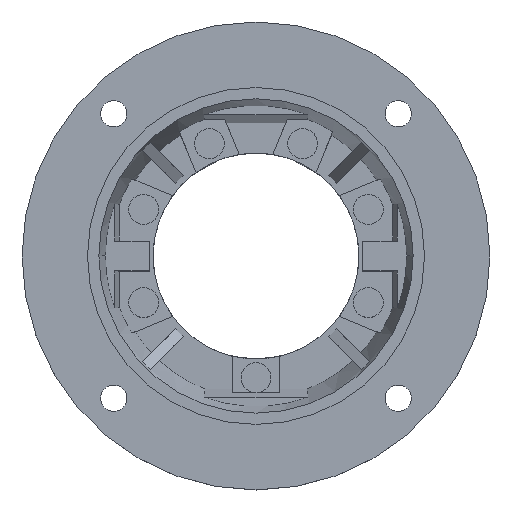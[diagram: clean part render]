
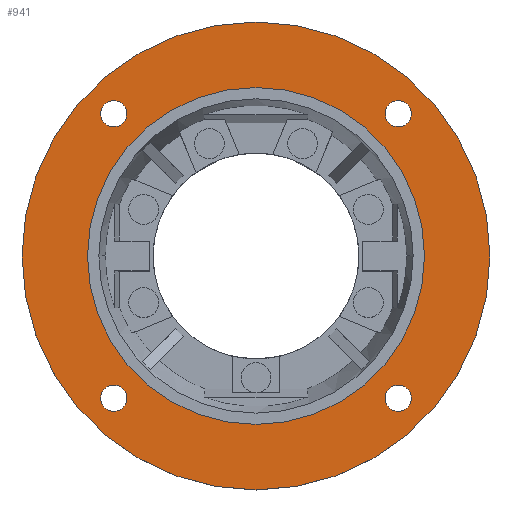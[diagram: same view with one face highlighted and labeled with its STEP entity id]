
A CAD part, top view. The second image highlights one B-rep face of the part: STEP entity #941.
In plain terms, the highlighted planar face has unit normal (0, 0, 1) as drawn and (1, 0, 0) by its records, which use the part's own axes.
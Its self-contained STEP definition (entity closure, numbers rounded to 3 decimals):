
#941=ADVANCED_FACE('',(#1097,#1052,#1053,#1054,#1055,#1056),#3181,.T.);
#1052=FACE_BOUND('',#1247,.T.);
#1053=FACE_BOUND('',#1248,.T.);
#1054=FACE_BOUND('',#1249,.T.);
#1055=FACE_BOUND('',#1250,.T.);
#1056=FACE_BOUND('',#1251,.T.);
#1097=FACE_OUTER_BOUND('',#1246,.T.);
#1246=EDGE_LOOP('',(#1645,#1646));
#1247=EDGE_LOOP('',(#1647,#1648));
#1248=EDGE_LOOP('',(#1649,#1650));
#1249=EDGE_LOOP('',(#1651,#1652));
#1250=EDGE_LOOP('',(#1653,#1654));
#1251=EDGE_LOOP('',(#1655,#1656));
#1645=ORIENTED_EDGE('',*,*,#2320,.F.);
#1646=ORIENTED_EDGE('',*,*,#2221,.F.);
#1647=ORIENTED_EDGE('',*,*,#2332,.F.);
#1648=ORIENTED_EDGE('',*,*,#2239,.F.);
#1649=ORIENTED_EDGE('',*,*,#2330,.F.);
#1650=ORIENTED_EDGE('',*,*,#2235,.F.);
#1651=ORIENTED_EDGE('',*,*,#2328,.F.);
#1652=ORIENTED_EDGE('',*,*,#2231,.F.);
#1653=ORIENTED_EDGE('',*,*,#2326,.F.);
#1654=ORIENTED_EDGE('',*,*,#2227,.F.);
#1655=ORIENTED_EDGE('',*,*,#2324,.F.);
#1656=ORIENTED_EDGE('',*,*,#2225,.F.);
#2221=EDGE_CURVE('',#3023,#3051,#2462,.T.);
#2225=EDGE_CURVE('',#3024,#3052,#2465,.T.);
#2227=EDGE_CURVE('',#3028,#3054,#2466,.T.);
#2231=EDGE_CURVE('',#3027,#3055,#2469,.T.);
#2235=EDGE_CURVE('',#3026,#3056,#2472,.T.);
#2239=EDGE_CURVE('',#3025,#3057,#2475,.T.);
#2320=EDGE_CURVE('',#3051,#3023,#2496,.T.);
#2324=EDGE_CURVE('',#3052,#3024,#2499,.T.);
#2326=EDGE_CURVE('',#3054,#3028,#2500,.T.);
#2328=EDGE_CURVE('',#3055,#3027,#2501,.T.);
#2330=EDGE_CURVE('',#3056,#3026,#2502,.T.);
#2332=EDGE_CURVE('',#3057,#3025,#2503,.T.);
#2462=TRIMMED_CURVE($,#2570,(#4909),(#4910),.T.,.CARTESIAN.);
#2465=TRIMMED_CURVE($,#2573,(#4920),(#4921),.T.,.CARTESIAN.);
#2466=TRIMMED_CURVE($,#2574,(#4925),(#4926),.T.,.CARTESIAN.);
#2469=TRIMMED_CURVE($,#2577,(#4936),(#4937),.T.,.CARTESIAN.);
#2472=TRIMMED_CURVE($,#2580,(#4947),(#4948),.T.,.CARTESIAN.);
#2475=TRIMMED_CURVE($,#2583,(#4958),(#4959),.T.,.CARTESIAN.);
#2496=TRIMMED_CURVE($,#2604,(#5169),(#5170),.T.,.CARTESIAN.);
#2499=TRIMMED_CURVE($,#2607,(#5180),(#5181),.T.,.CARTESIAN.);
#2500=TRIMMED_CURVE($,#2608,(#5185),(#5186),.T.,.CARTESIAN.);
#2501=TRIMMED_CURVE($,#2609,(#5190),(#5191),.T.,.CARTESIAN.);
#2502=TRIMMED_CURVE($,#2610,(#5195),(#5196),.T.,.CARTESIAN.);
#2503=TRIMMED_CURVE($,#2611,(#5200),(#5201),.T.,.CARTESIAN.);
#2570=CIRCLE('',#3658,125.);
#2573=CIRCLE('',#3661,90.);
#2574=CIRCLE('',#3662,7.);
#2577=CIRCLE('',#3665,7.);
#2580=CIRCLE('',#3668,7.);
#2583=CIRCLE('',#3671,7.);
#2604=CIRCLE('',#3692,125.);
#2607=CIRCLE('',#3695,90.);
#2608=CIRCLE('',#3696,7.);
#2609=CIRCLE('',#3697,7.);
#2610=CIRCLE('',#3698,7.);
#2611=CIRCLE('',#3699,7.);
#3023=VERTEX_POINT('',#4453);
#3024=VERTEX_POINT('',#4454);
#3025=VERTEX_POINT('',#4455);
#3026=VERTEX_POINT('',#4456);
#3027=VERTEX_POINT('',#4457);
#3028=VERTEX_POINT('',#4458);
#3051=VERTEX_POINT('',#4481);
#3052=VERTEX_POINT('',#4482);
#3054=VERTEX_POINT('',#4484);
#3055=VERTEX_POINT('',#4485);
#3056=VERTEX_POINT('',#4486);
#3057=VERTEX_POINT('',#4487);
#3181=PLANE('',#3548);
#3548=AXIS2_PLACEMENT_3D('',#4226,#3792,$);
#3658=AXIS2_PLACEMENT_3D($,#4908,#3942,#3943);
#3661=AXIS2_PLACEMENT_3D($,#4919,#3948,#3949);
#3662=AXIS2_PLACEMENT_3D($,#4924,#3950,#3951);
#3665=AXIS2_PLACEMENT_3D($,#4935,#3956,#3957);
#3668=AXIS2_PLACEMENT_3D($,#4946,#3962,#3963);
#3671=AXIS2_PLACEMENT_3D($,#4957,#3968,#3969);
#3692=AXIS2_PLACEMENT_3D($,#5168,#4010,#4011);
#3695=AXIS2_PLACEMENT_3D($,#5179,#4016,#4017);
#3696=AXIS2_PLACEMENT_3D($,#5184,#4018,#4019);
#3697=AXIS2_PLACEMENT_3D($,#5189,#4020,#4021);
#3698=AXIS2_PLACEMENT_3D($,#5194,#4022,#4023);
#3699=AXIS2_PLACEMENT_3D($,#5199,#4024,#4025);
#3792=DIRECTION('',(1.,0.,0.));
#3942=DIRECTION('',(-1.,0.,0.));
#3943=DIRECTION('',(0.,0.,-1.));
#3948=DIRECTION('',(1.,0.,0.));
#3949=DIRECTION('',(0.,0.,-1.));
#3950=DIRECTION('',(1.,0.,0.));
#3951=DIRECTION('',(0.,0.,1.));
#3956=DIRECTION('',(1.,0.,0.));
#3957=DIRECTION('',(0.,0.,1.));
#3962=DIRECTION('',(1.,0.,0.));
#3963=DIRECTION('',(0.,0.,1.));
#3968=DIRECTION('',(1.,0.,0.));
#3969=DIRECTION('',(0.,0.,1.));
#4010=DIRECTION('',(-1.,0.,0.));
#4011=DIRECTION('',(0.,0.,1.));
#4016=DIRECTION('',(1.,0.,0.));
#4017=DIRECTION('',(0.,0.,1.));
#4018=DIRECTION('',(1.,0.,0.));
#4019=DIRECTION('',(0.,0.,-1.));
#4020=DIRECTION('',(1.,0.,0.));
#4021=DIRECTION('',(0.,0.,-1.));
#4022=DIRECTION('',(1.,0.,0.));
#4023=DIRECTION('',(0.,0.,-1.));
#4024=DIRECTION('',(1.,0.,0.));
#4025=DIRECTION('',(0.,0.,-1.));
#4226=CARTESIAN_POINT('',(32.,-150.06,-150.06));
#4453=CARTESIAN_POINT('',(32.,0.,-125.));
#4454=CARTESIAN_POINT('',(32.,0.,-90.));
#4455=CARTESIAN_POINT('',(32.,-76.014,-69.014));
#4456=CARTESIAN_POINT('',(32.,-76.014,83.014));
#4457=CARTESIAN_POINT('',(32.,76.014,83.014));
#4458=CARTESIAN_POINT('',(32.,76.014,-69.014));
#4481=CARTESIAN_POINT('',(32.,0.,125.));
#4482=CARTESIAN_POINT('',(32.,0.,90.));
#4484=CARTESIAN_POINT('',(32.,76.014,-83.014));
#4485=CARTESIAN_POINT('',(32.,76.014,69.014));
#4486=CARTESIAN_POINT('',(32.,-76.014,69.014));
#4487=CARTESIAN_POINT('',(32.,-76.014,-83.014));
#4908=CARTESIAN_POINT('',(32.,0.,0.));
#4909=CARTESIAN_POINT('',(32.,0.,-125.));
#4910=CARTESIAN_POINT('',(32.,0.,125.));
#4919=CARTESIAN_POINT('',(32.,0.,0.));
#4920=CARTESIAN_POINT('',(32.,0.,-90.));
#4921=CARTESIAN_POINT('',(32.,0.,90.));
#4924=CARTESIAN_POINT('',(32.,76.014,-76.014));
#4925=CARTESIAN_POINT('',(32.,76.014,-69.014));
#4926=CARTESIAN_POINT('',(32.,76.014,-83.014));
#4935=CARTESIAN_POINT('',(32.,76.014,76.014));
#4936=CARTESIAN_POINT('',(32.,76.014,83.014));
#4937=CARTESIAN_POINT('',(32.,76.014,69.014));
#4946=CARTESIAN_POINT('',(32.,-76.014,76.014));
#4947=CARTESIAN_POINT('',(32.,-76.014,83.014));
#4948=CARTESIAN_POINT('',(32.,-76.014,69.014));
#4957=CARTESIAN_POINT('',(32.,-76.014,-76.014));
#4958=CARTESIAN_POINT('',(32.,-76.014,-69.014));
#4959=CARTESIAN_POINT('',(32.,-76.014,-83.014));
#5168=CARTESIAN_POINT('',(32.,0.,0.));
#5169=CARTESIAN_POINT('',(32.,0.,125.));
#5170=CARTESIAN_POINT('',(32.,0.,-125.));
#5179=CARTESIAN_POINT('',(32.,0.,0.));
#5180=CARTESIAN_POINT('',(32.,0.,90.));
#5181=CARTESIAN_POINT('',(32.,0.,-90.));
#5184=CARTESIAN_POINT('',(32.,76.014,-76.014));
#5185=CARTESIAN_POINT('',(32.,76.014,-83.014));
#5186=CARTESIAN_POINT('',(32.,76.014,-69.014));
#5189=CARTESIAN_POINT('',(32.,76.014,76.014));
#5190=CARTESIAN_POINT('',(32.,76.014,69.014));
#5191=CARTESIAN_POINT('',(32.,76.014,83.014));
#5194=CARTESIAN_POINT('',(32.,-76.014,76.014));
#5195=CARTESIAN_POINT('',(32.,-76.014,69.014));
#5196=CARTESIAN_POINT('',(32.,-76.014,83.014));
#5199=CARTESIAN_POINT('',(32.,-76.014,-76.014));
#5200=CARTESIAN_POINT('',(32.,-76.014,-83.014));
#5201=CARTESIAN_POINT('',(32.,-76.014,-69.014));
